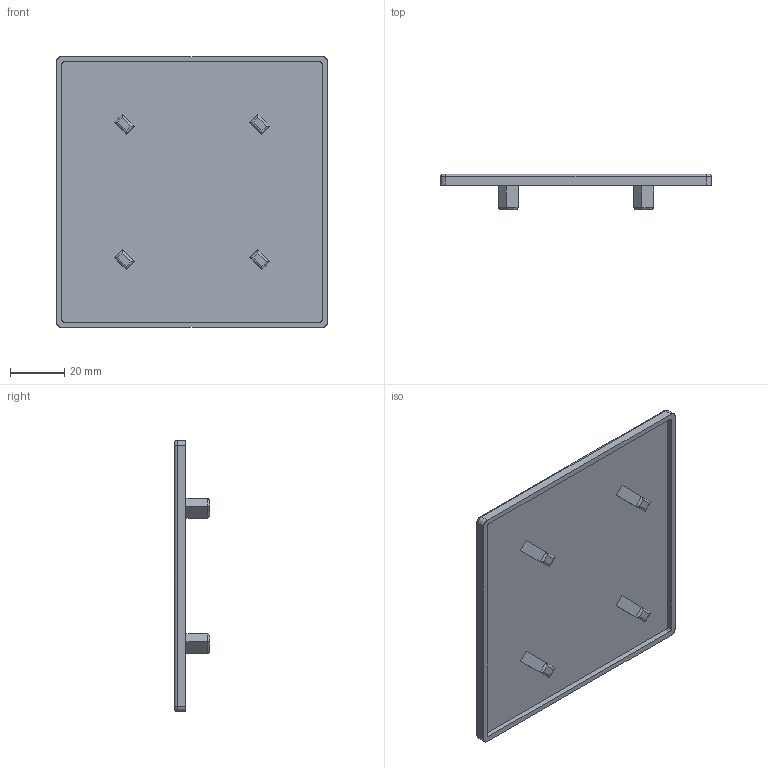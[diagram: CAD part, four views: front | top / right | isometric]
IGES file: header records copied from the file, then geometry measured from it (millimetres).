
Start section: SolidWorks IGES file using analytic representation for surfaces
Global section: file name: C:\Users\sr-d11\Desktop\ホームページ用\IGES\J5C1010\J5C1010.IGS; native system: SolidWorks 2014; preprocessor: SolidWorks 2014; author: sr-d11; date: 180829.132729; units: millimetre
Bounding box: 100 x 13 x 100 mm (x, y, z)
Surface area: 23053 mm2 (no closed solid volume)
Topology: 0 solids, 0 shells, 63 faces, 480 edges, 480 vertices
Faces by surface type: bspline 35, revolution 28
